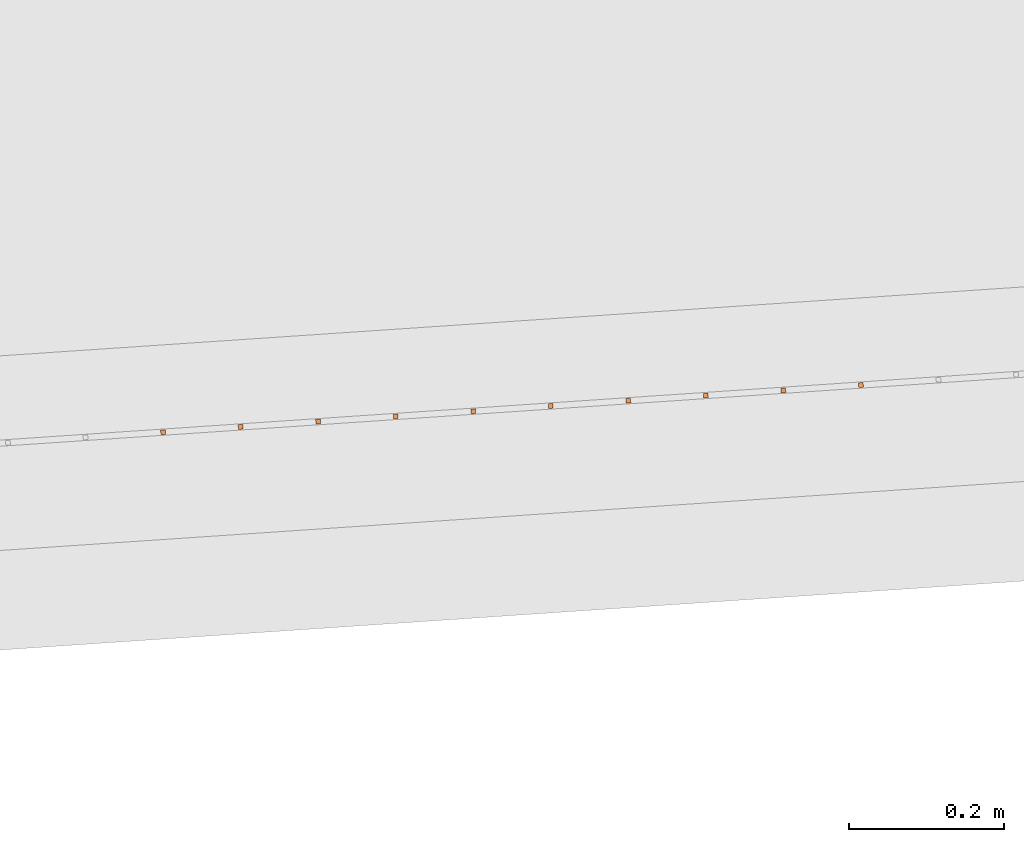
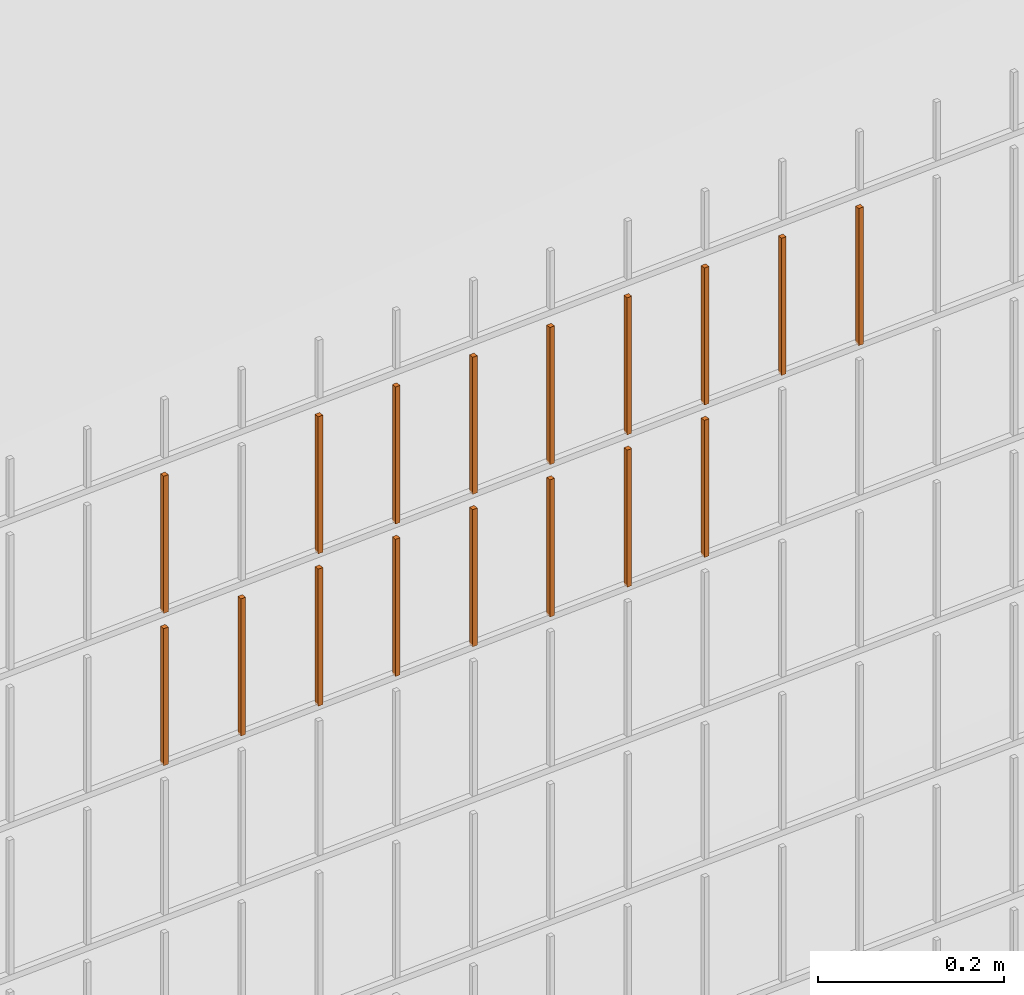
# One storey, part 177 of 1809: 17 proxies, 1 element without a shape of its own.
"""IFC2X3 building model written with IfcOpenShell, lengths in millimetres."""

from ifc_helpers import new_model, entity, si_unit, converted_unit, derived_unit, money_unit, direction, frame, origin_with_axes, place, context, subcontext, project, spatial, faceted_brep, source, transform, mapped, material, type_object, element, aggregate, save


model = new_model("IFC2X3")

# Units and contexts
model_context = context("Model", 3, precision=0.01, world=origin_with_axes(), true_north=direction((0.0, 1.0)))
body_context = subcontext(model_context, "Body", "Model", "MODEL_VIEW")
ifc_project = project(units=[si_unit("LENGTHUNIT", "METRE", prefix="MILLI"), si_unit("AREAUNIT", "SQUARE_METRE"), si_unit("VOLUMEUNIT", "CUBIC_METRE"), converted_unit("PLANEANGLEUNIT", "DEGREE", entity("IfcPlaneAngleMeasure", 0.0174532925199), si_unit("PLANEANGLEUNIT", "RADIAN"), dimensions=[0, 0, 0, 0, 0, 0, 0]), si_unit("SOLIDANGLEUNIT", "STERADIAN"), money_unit("EUR"), converted_unit("TIMEUNIT", "Year", entity("IfcTimeMeasure", 31556926.0), si_unit("TIMEUNIT", "SECOND"), dimensions=[0, 0, 1, 0, 0, 0, 0]), si_unit("MASSUNIT", "GRAM", prefix="KILO"), si_unit("THERMODYNAMICTEMPERATUREUNIT", "DEGREE_CELSIUS"), si_unit("LUMINOUSINTENSITYUNIT", "LUMEN"), si_unit("ENERGYUNIT", "JOULE", prefix="MEGA"), derived_unit("THERMALCONDUCTANCEUNIT", [(si_unit("POWERUNIT", "WATT"), 1), (si_unit("LENGTHUNIT", "METRE"), -1), (si_unit("THERMODYNAMICTEMPERATUREUNIT", "KELVIN"), -1)]), derived_unit("SPECIFICHEATCAPACITYUNIT", [(si_unit("ENERGYUNIT", "JOULE"), 1), (si_unit("MASSUNIT", "GRAM", prefix="KILO"), -1), (si_unit("THERMODYNAMICTEMPERATUREUNIT", "KELVIN"), -1)]), derived_unit("MASSDENSITYUNIT", [(si_unit("MASSUNIT", "GRAM", prefix="KILO"), 1), (si_unit("VOLUMEUNIT", "CUBIC_METRE"), -1)])], contexts=[model_context])

# Site, building, storey
site_placement = place(None, origin_with_axes())
site = spatial("IfcSite", under=ifc_project, at=site_placement, Name="Politse- ja Piirivalveameti ning Päästeameti ühishoone", CompositionType="ELEMENT")
building_placement = place(site_placement, origin_with_axes())
building = spatial("IfcBuilding", under=site, at=building_placement, Name="Politse- ja Piirivalveameti ning Päästeameti ühishoone", CompositionType="ELEMENT")
storey_placement = place(building_placement, origin_with_axes())
storey = spatial("IfcBuildingStorey", under=building, at=storey_placement, Name="Esimene korrus", CompositionType="ELEMENT", Elevation=0.0)

# Proxies
building_element_proxy_type_1 = type_object("IfcBuildingElementProxyType", Name="Railing Type", PredefinedType="NOTDEFINED")
proxy_1_placement = place(storey_placement, frame((89252.001212, -29183.4766571, 203.661247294), z_axis=(0.0, 0.0, 1.0), x_axis=(1.0, 0.0, 0.0)))
proxy_1 = element("IfcBuildingElementProxy", 1, at=proxy_1_placement, inside=storey, type_object=building_element_proxy_type_1, Name="PIIRDEAED")
ifc_material = material(Name="ET-03_Raud")
building_element_proxy_type_2 = type_object("IfcBuildingElementProxyType", Name="IfcBuildingElementProxy", PredefinedType="NOTDEFINED")
shared_shape_1 = source(origin_with_axes(), body_context, "Body", "Brep", [
    faceted_brep([(3.0, 3.0, -0.000752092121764), (-3.0, 3.0, -0.000752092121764), (-3.0, 3.0, 179.99926046), (3.0, 3.0, 179.99926046), (3.0, -3.0, 0.000752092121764), (-3.0, -3.0, 0.000752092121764), (-3.0, -3.0, 180.000764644), (3.0, -3.0, 180.000764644)], [[[0, 1, 2, 3]], [[0, 4, 5, 1]], [[1, 5, 6, 2]], [[3, 2, 6, 7]], [[4, 0, 3, 7]], [[5, 4, 7, 6]]]),
])
proxy_2_placement = place(proxy_1_placement, frame((-73559.0725734, -22266.412512, 1608.75129845), z_axis=(0.0, 0.0, 1.0), x_axis=(1.0, 0.0, 0.0)))
proxy_2 = element("IfcBuildingElementProxy", 2, at=proxy_2_placement, type_object=building_element_proxy_type_2, material=ifc_material, Name="BALUSTER - 001", context=body_context, shape_type="MappedRepresentation", body=[
    mapped(shared_shape_1, transform((0.0, 0.0, 0.0), x_axis=(-0.0673926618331, 0.997726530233, 0.0), y_axis=(-0.997726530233, -0.0673926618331, 0.0), z_axis=(0.0, 0.0, 1.0))),
])
proxy_3_placement = place(proxy_1_placement, frame((-74157.7084915, -22306.8481091, 1608.60088002), z_axis=(0.0, 0.0, 1.0), x_axis=(1.0, 0.0, 0.0)))
proxy_3 = element("IfcBuildingElementProxy", 3, at=proxy_3_placement, type_object=building_element_proxy_type_2, material=ifc_material, Name="BALUSTER - 001", context=body_context, shape_type="MappedRepresentation", body=[
    mapped(shared_shape_1, transform((0.0, 0.0, 0.0), x_axis=(-0.0673926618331, 0.997726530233, 0.0), y_axis=(-0.997726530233, -0.0673926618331, 0.0), z_axis=(0.0, 0.0, 1.0))),
])
shared_shape_2 = source(origin_with_axes(), body_context, "Body", "Brep", [
    faceted_brep([(3.0, 3.0, -0.000752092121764), (-3.0, 3.0, -0.000752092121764), (-3.0, 3.0, 179.99926046), (3.0, 3.0, 179.99926046), (3.0, -3.0, 0.000752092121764), (-3.0, -3.0, 0.000752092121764), (-3.0, -3.0, 180.000764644), (3.0, -3.0, 180.000764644)], [[[0, 1, 2, 3]], [[0, 4, 5, 1]], [[1, 5, 6, 2]], [[3, 2, 6, 7]], [[4, 0, 3, 7]], [[5, 4, 7, 6]]]),
])
proxy_4_placement = place(proxy_1_placement, frame((-73259.7546143, -22246.1947135, 1808.82650766), z_axis=(0.0, 0.0, 1.0), x_axis=(1.0, 0.0, 0.0)))
proxy_4 = element("IfcBuildingElementProxy", 4, at=proxy_4_placement, type_object=building_element_proxy_type_2, material=ifc_material, Name="BALUSTER - 001", context=body_context, shape_type="MappedRepresentation", body=[
    mapped(shared_shape_2, transform((0.0, 0.0, 0.0), x_axis=(-0.0673926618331, 0.997726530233, 0.0), y_axis=(-0.997726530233, -0.0673926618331, 0.0), z_axis=(0.0, 0.0, 1.0))),
])
proxy_5_placement = place(proxy_1_placement, frame((-73559.0725734, -22266.412512, 1808.75129845), z_axis=(0.0, 0.0, 1.0), x_axis=(1.0, 0.0, 0.0)))
proxy_5 = element("IfcBuildingElementProxy", 5, at=proxy_5_placement, type_object=building_element_proxy_type_2, material=ifc_material, Name="BALUSTER - 001", context=body_context, shape_type="MappedRepresentation", body=[
    mapped(shared_shape_2, transform((0.0, 0.0, 0.0), x_axis=(-0.0673926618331, 0.997726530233, 0.0), y_axis=(-0.997726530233, -0.0673926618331, 0.0), z_axis=(0.0, 0.0, 1.0))),
])
shared_shape_3 = source(origin_with_axes(), body_context, "Body", "Brep", [
    faceted_brep([(3.0, 3.0, -0.000752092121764), (-3.0, 3.0, -0.000752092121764), (-3.0, 3.0, 179.99926046), (3.0, 3.0, 179.99926046), (3.0, -3.0, 0.000752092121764), (-3.0, -3.0, 0.000752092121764), (-3.0, -3.0, 180.000764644), (3.0, -3.0, 180.000764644)], [[[0, 1, 2, 3]], [[0, 4, 5, 1]], [[1, 5, 6, 2]], [[3, 2, 6, 7]], [[4, 0, 3, 7]], [[5, 4, 7, 6]]]),
])
proxy_6_placement = place(proxy_1_placement, frame((-73359.5272673, -22252.9339796, 1808.80143792), z_axis=(0.0, 0.0, 1.0), x_axis=(1.0, 0.0, 0.0)))
proxy_6 = element("IfcBuildingElementProxy", 6, at=proxy_6_placement, type_object=building_element_proxy_type_2, material=ifc_material, Name="BALUSTER - 001", context=body_context, shape_type="MappedRepresentation", body=[
    mapped(shared_shape_3, transform((0.0, 0.0, 0.0), x_axis=(-0.0673926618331, 0.997726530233, 0.0), y_axis=(-0.997726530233, -0.0673926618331, 0.0), z_axis=(0.0, 0.0, 1.0))),
])
proxy_7_placement = place(proxy_1_placement, frame((-74157.7084915, -22306.8481091, 1808.60088002), z_axis=(0.0, 0.0, 1.0), x_axis=(1.0, 0.0, 0.0)))
proxy_7 = element("IfcBuildingElementProxy", 7, at=proxy_7_placement, type_object=building_element_proxy_type_2, material=ifc_material, Name="BALUSTER - 001", context=body_context, shape_type="MappedRepresentation", body=[
    mapped(shared_shape_3, transform((0.0, 0.0, 0.0), x_axis=(-0.0673926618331, 0.997726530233, 0.0), y_axis=(-0.997726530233, -0.0673926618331, 0.0), z_axis=(0.0, 0.0, 1.0))),
])
shared_shape_4 = source(origin_with_axes(), body_context, "Body", "Brep", [
    faceted_brep([(3.0, 3.0, -0.000752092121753), (-3.0, 3.0, -0.000752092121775), (-3.0, 3.0, 179.99926046), (3.0, 3.0, 179.99926046), (3.0, -3.0, 0.000752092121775), (-3.0, -3.0, 0.000752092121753), (-3.0, -3.0, 180.000764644), (3.0, -3.0, 180.000764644)], [[[0, 1, 2, 3]], [[0, 4, 5, 1]], [[1, 5, 6, 2]], [[3, 2, 6, 7]], [[4, 0, 3, 7]], [[5, 4, 7, 6]]]),
])
proxy_8_placement = place(proxy_1_placement, frame((-73858.3905324, -22286.6303106, 1808.67608924), z_axis=(0.0, 0.0, 1.0), x_axis=(1.0, 0.0, 0.0)))
proxy_8 = element("IfcBuildingElementProxy", 8, at=proxy_8_placement, type_object=building_element_proxy_type_2, material=ifc_material, Name="BALUSTER - 001", context=body_context, shape_type="MappedRepresentation", body=[
    mapped(shared_shape_4, transform((0.0, 0.0, 0.0), x_axis=(-0.0673926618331, 0.997726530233, 0.0), y_axis=(-0.997726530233, -0.0673926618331, 0.0), z_axis=(0.0, 0.0, 1.0))),
])
shared_shape_5 = source(origin_with_axes(), body_context, "Body", "Brep", [
    faceted_brep([(3.0, 3.0, -0.000752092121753), (-3.0, 3.0, -0.000752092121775), (-3.0, 3.0, 179.99926046), (3.0, 3.0, 179.99926046), (3.0, -3.0, 0.000752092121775), (-3.0, -3.0, 0.000752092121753), (-3.0, -3.0, 180.000764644), (3.0, -3.0, 180.000764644)], [[[0, 1, 2, 3]], [[0, 4, 5, 1]], [[1, 5, 6, 2]], [[3, 2, 6, 7]], [[4, 0, 3, 7]], [[5, 4, 7, 6]]]),
])
proxy_9_placement = place(proxy_1_placement, frame((-73858.3905324, -22286.6303106, 1608.67608924), z_axis=(0.0, 0.0, 1.0), x_axis=(1.0, 0.0, 0.0)))
proxy_9 = element("IfcBuildingElementProxy", 9, at=proxy_9_placement, type_object=building_element_proxy_type_2, material=ifc_material, Name="BALUSTER - 001", context=body_context, shape_type="MappedRepresentation", body=[
    mapped(shared_shape_5, transform((0.0, 0.0, 0.0), x_axis=(-0.0673926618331, 0.997726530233, 0.0), y_axis=(-0.997726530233, -0.0673926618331, 0.0), z_axis=(0.0, 0.0, 1.0))),
])
shared_shape_6 = source(origin_with_axes(), body_context, "Body", "Brep", [
    faceted_brep([(3.0, 3.0, -0.000752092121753), (-3.0, 3.0, -0.000752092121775), (-3.0, 3.0, 179.99926046), (3.0, 3.0, 179.99926046), (3.0, -3.0, 0.000752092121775), (-3.0, -3.0, 0.000752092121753), (-3.0, -3.0, 180.000764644), (3.0, -3.0, 180.000764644)], [[[0, 1, 2, 3]], [[0, 4, 5, 1]], [[1, 5, 6, 2]], [[3, 2, 6, 7]], [[4, 0, 3, 7]], [[5, 4, 7, 6]]]),
])
proxy_10_placement = place(proxy_1_placement, frame((-73958.1631855, -22293.3695767, 1608.6510195), z_axis=(0.0, 0.0, 1.0), x_axis=(1.0, 0.0, 0.0)))
proxy_10 = element("IfcBuildingElementProxy", 10, at=proxy_10_placement, type_object=building_element_proxy_type_2, material=ifc_material, Name="BALUSTER - 001", context=body_context, shape_type="MappedRepresentation", body=[
    mapped(shared_shape_6, transform((0.0, 0.0, 0.0), x_axis=(-0.0673926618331, 0.997726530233, 0.0), y_axis=(-0.997726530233, -0.0673926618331, 0.0), z_axis=(0.0, 0.0, 1.0))),
])
shared_shape_7 = source(origin_with_axes(), body_context, "Body", "Brep", [
    faceted_brep([(3.0, 3.0, -0.000752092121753), (-3.0, 3.0, -0.000752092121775), (-3.0, 3.0, 179.99926046), (3.0, 3.0, 179.99926046), (3.0, -3.0, 0.000752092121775), (-3.0, -3.0, 0.000752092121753), (-3.0, -3.0, 180.000764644), (3.0, -3.0, 180.000764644)], [[[0, 1, 2, 3]], [[0, 4, 5, 1]], [[1, 5, 6, 2]], [[3, 2, 6, 7]], [[4, 0, 3, 7]], [[5, 4, 7, 6]]]),
])
proxy_11_placement = place(proxy_1_placement, frame((-73658.8452264, -22273.1517782, 1808.72622871), z_axis=(0.0, 0.0, 1.0), x_axis=(1.0, 0.0, 0.0)))
proxy_11 = element("IfcBuildingElementProxy", 11, at=proxy_11_placement, type_object=building_element_proxy_type_2, material=ifc_material, Name="BALUSTER - 001", context=body_context, shape_type="MappedRepresentation", body=[
    mapped(shared_shape_7, transform((0.0, 0.0, 0.0), x_axis=(-0.0673926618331, 0.997726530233, 0.0), y_axis=(-0.997726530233, -0.0673926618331, 0.0), z_axis=(0.0, 0.0, 1.0))),
])
shared_shape_8 = source(origin_with_axes(), body_context, "Body", "Brep", [
    faceted_brep([(3.0, 3.0, -0.000752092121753), (-3.0, 3.0, -0.000752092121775), (-3.0, 3.0, 179.99926046), (3.0, 3.0, 179.99926046), (3.0, -3.0, 0.000752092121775), (-3.0, -3.0, 0.000752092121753), (-3.0, -3.0, 180.000764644), (3.0, -3.0, 180.000764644)], [[[0, 1, 2, 3]], [[0, 4, 5, 1]], [[1, 5, 6, 2]], [[3, 2, 6, 7]], [[4, 0, 3, 7]], [[5, 4, 7, 6]]]),
])
proxy_12_placement = place(proxy_1_placement, frame((-73958.1631855, -22293.3695767, 1808.6510195), z_axis=(0.0, 0.0, 1.0), x_axis=(1.0, 0.0, 0.0)))
proxy_12 = element("IfcBuildingElementProxy", 12, at=proxy_12_placement, type_object=building_element_proxy_type_2, material=ifc_material, Name="BALUSTER - 001", context=body_context, shape_type="MappedRepresentation", body=[
    mapped(shared_shape_8, transform((0.0, 0.0, 0.0), x_axis=(-0.0673926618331, 0.997726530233, 0.0), y_axis=(-0.997726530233, -0.0673926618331, 0.0), z_axis=(0.0, 0.0, 1.0))),
])
shared_shape_9 = source(origin_with_axes(), body_context, "Body", "Brep", [
    faceted_brep([(3.0, 3.0, -0.000752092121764), (-3.0, 3.0, -0.000752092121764), (-3.0, 3.0, 179.99926046), (3.0, 3.0, 179.99926046), (3.0, -3.0, 0.000752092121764), (-3.0, -3.0, 0.000752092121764), (-3.0, -3.0, 180.000764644), (3.0, -3.0, 180.000764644)], [[[0, 1, 2, 3]], [[0, 4, 5, 1]], [[1, 5, 6, 2]], [[3, 2, 6, 7]], [[4, 0, 3, 7]], [[5, 4, 7, 6]]]),
])
proxy_13_placement = place(proxy_1_placement, frame((-73459.2999203, -22259.6732458, 1808.77636819), z_axis=(0.0, 0.0, 1.0), x_axis=(1.0, 0.0, 0.0)))
proxy_13 = element("IfcBuildingElementProxy", 13, at=proxy_13_placement, type_object=building_element_proxy_type_2, material=ifc_material, Name="BALUSTER - 001", context=body_context, shape_type="MappedRepresentation", body=[
    mapped(shared_shape_9, transform((0.0, 0.0, 0.0), x_axis=(-0.0673926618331, 0.997726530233, 0.0), y_axis=(-0.997726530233, -0.0673926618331, 0.0), z_axis=(0.0, 0.0, 1.0))),
])
shared_shape_10 = source(origin_with_axes(), body_context, "Body", "Brep", [
    faceted_brep([(3.0, 3.0, -0.000752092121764), (-3.0, 3.0, -0.000752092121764), (-3.0, 3.0, 179.99926046), (3.0, 3.0, 179.99926046), (3.0, -3.0, 0.000752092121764), (-3.0, -3.0, 0.000752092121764), (-3.0, -3.0, 180.000764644), (3.0, -3.0, 180.000764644)], [[[0, 1, 2, 3]], [[0, 4, 5, 1]], [[1, 5, 6, 2]], [[3, 2, 6, 7]], [[4, 0, 3, 7]], [[5, 4, 7, 6]]]),
])
proxy_14_placement = place(proxy_1_placement, frame((-73459.2999203, -22259.6732458, 1608.77636819), z_axis=(0.0, 0.0, 1.0), x_axis=(1.0, 0.0, 0.0)))
proxy_14 = element("IfcBuildingElementProxy", 14, at=proxy_14_placement, type_object=building_element_proxy_type_2, material=ifc_material, Name="BALUSTER - 001", context=body_context, shape_type="MappedRepresentation", body=[
    mapped(shared_shape_10, transform((0.0, 0.0, 0.0), x_axis=(-0.0673926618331, 0.997726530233, 0.0), y_axis=(-0.997726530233, -0.0673926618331, 0.0), z_axis=(0.0, 0.0, 1.0))),
])
shared_shape_11 = source(origin_with_axes(), body_context, "Body", "Brep", [
    faceted_brep([(3.0, 3.0, -0.000752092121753), (-3.0, 3.0, -0.000752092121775), (-3.0, 3.0, 179.99926046), (3.0, 3.0, 179.99926046), (3.0, -3.0, 0.000752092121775), (-3.0, -3.0, 0.000752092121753), (-3.0, -3.0, 180.000764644), (3.0, -3.0, 180.000764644)], [[[0, 1, 2, 3]], [[0, 4, 5, 1]], [[1, 5, 6, 2]], [[3, 2, 6, 7]], [[4, 0, 3, 7]], [[5, 4, 7, 6]]]),
])
proxy_15_placement = place(proxy_1_placement, frame((-73758.6178794, -22279.8910444, 1608.70115897), z_axis=(0.0, 0.0, 1.0), x_axis=(1.0, 0.0, 0.0)))
proxy_15 = element("IfcBuildingElementProxy", 15, at=proxy_15_placement, type_object=building_element_proxy_type_2, material=ifc_material, Name="BALUSTER - 001", context=body_context, shape_type="MappedRepresentation", body=[
    mapped(shared_shape_11, transform((0.0, 0.0, 0.0), x_axis=(-0.0673926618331, 0.997726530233, 0.0), y_axis=(-0.997726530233, -0.0673926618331, 0.0), z_axis=(0.0, 0.0, 1.0))),
])
shared_shape_12 = source(origin_with_axes(), body_context, "Body", "Brep", [
    faceted_brep([(3.0, 3.0, -0.000752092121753), (-3.0, 3.0, -0.000752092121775), (-3.0, 3.0, 179.99926046), (3.0, 3.0, 179.99926046), (3.0, -3.0, 0.000752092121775), (-3.0, -3.0, 0.000752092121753), (-3.0, -3.0, 180.000764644), (3.0, -3.0, 180.000764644)], [[[0, 1, 2, 3]], [[0, 4, 5, 1]], [[1, 5, 6, 2]], [[3, 2, 6, 7]], [[4, 0, 3, 7]], [[5, 4, 7, 6]]]),
])
proxy_16_placement = place(proxy_1_placement, frame((-73758.6178794, -22279.8910444, 1808.70115897), z_axis=(0.0, 0.0, 1.0), x_axis=(1.0, 0.0, 0.0)))
proxy_16 = element("IfcBuildingElementProxy", 16, at=proxy_16_placement, type_object=building_element_proxy_type_2, material=ifc_material, Name="BALUSTER - 001", context=body_context, shape_type="MappedRepresentation", body=[
    mapped(shared_shape_12, transform((0.0, 0.0, 0.0), x_axis=(-0.0673926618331, 0.997726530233, 0.0), y_axis=(-0.997726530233, -0.0673926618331, 0.0), z_axis=(0.0, 0.0, 1.0))),
])
shared_shape_13 = source(origin_with_axes(), body_context, "Body", "Brep", [
    faceted_brep([(3.0, 3.0, -0.000752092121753), (-3.0, 3.0, -0.000752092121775), (-3.0, 3.0, 179.99926046), (3.0, 3.0, 179.99926046), (3.0, -3.0, 0.000752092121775), (-3.0, -3.0, 0.000752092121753), (-3.0, -3.0, 180.000764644), (3.0, -3.0, 180.000764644)], [[[0, 1, 2, 3]], [[0, 4, 5, 1]], [[1, 5, 6, 2]], [[3, 2, 6, 7]], [[4, 0, 3, 7]], [[5, 4, 7, 6]]]),
])
proxy_17_placement = place(proxy_1_placement, frame((-73658.8452264, -22273.1517782, 1608.72622871), z_axis=(0.0, 0.0, 1.0), x_axis=(1.0, 0.0, 0.0)))
proxy_17 = element("IfcBuildingElementProxy", 17, at=proxy_17_placement, type_object=building_element_proxy_type_2, material=ifc_material, Name="BALUSTER - 001", context=body_context, shape_type="MappedRepresentation", body=[
    mapped(shared_shape_13, transform((0.0, 0.0, 0.0), x_axis=(-0.0673926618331, 0.997726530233, 0.0), y_axis=(-0.997726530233, -0.0673926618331, 0.0), z_axis=(0.0, 0.0, 1.0))),
])
shared_shape_14 = source(origin_with_axes(), body_context, "Body", "Brep", [
    faceted_brep([(3.0, 3.0, -0.000752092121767), (-3.0, 3.0, -0.000752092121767), (-3.0, 3.0, 179.99926046), (3.0, 3.0, 179.99926046), (3.0, -3.0, 0.000752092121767), (-3.0, -3.0, 0.000752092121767), (-3.0, -3.0, 180.000764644), (3.0, -3.0, 180.000764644)], [[[0, 1, 2, 3]], [[0, 4, 5, 1]], [[1, 5, 6, 2]], [[3, 2, 6, 7]], [[4, 0, 3, 7]], [[5, 4, 7, 6]]]),
])
proxy_18_placement = place(proxy_1_placement, frame((-74057.9358385, -22300.1088429, 1608.62594976), z_axis=(0.0, 0.0, 1.0), x_axis=(1.0, 0.0, 0.0)))
proxy_18 = element("IfcBuildingElementProxy", 18, at=proxy_18_placement, type_object=building_element_proxy_type_2, material=ifc_material, Name="BALUSTER - 001", context=body_context, shape_type="MappedRepresentation", body=[
    mapped(shared_shape_14, transform((0.0, 0.0, 0.0), x_axis=(-0.0673926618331, 0.997726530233, 0.0), y_axis=(-0.997726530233, -0.0673926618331, 0.0), z_axis=(0.0, 0.0, 1.0))),
])
aggregate(proxy_1, [proxy_14, proxy_2, proxy_17, proxy_15, proxy_9, proxy_10, proxy_18, proxy_3, proxy_4, proxy_6, proxy_13, proxy_5, proxy_11, proxy_16, proxy_8, proxy_12, proxy_7])

save(model, "model.ifc")
